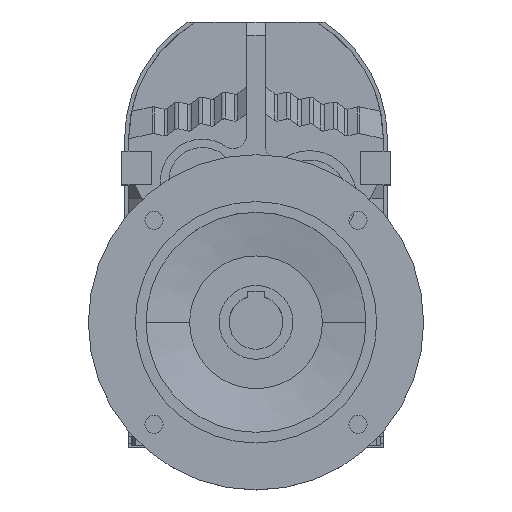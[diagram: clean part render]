
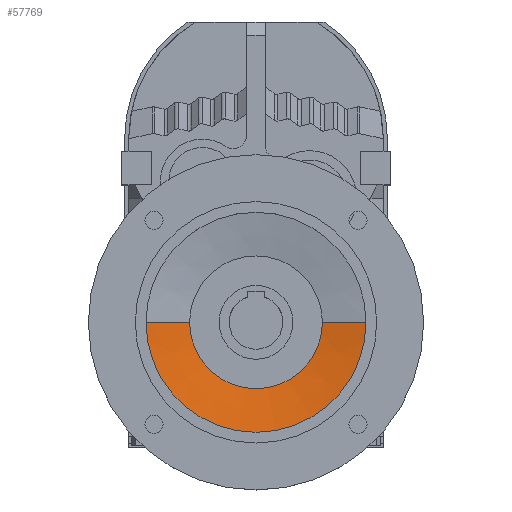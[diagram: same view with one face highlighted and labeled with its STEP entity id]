
A CAD part, top view. The second image highlights one B-rep face of the part: STEP entity #57769.
In plain terms, the highlighted conical face has half-angle 80.395 degrees and reference radius 82 mm.
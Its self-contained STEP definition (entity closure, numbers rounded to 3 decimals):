
#56710 = CYLINDRICAL_SURFACE('',#56711,82.);
#56711 = AXIS2_PLACEMENT_3D('',#56712,#56713,#56714);
#56712 = CARTESIAN_POINT('',(0.,-136.,0.));
#56713 = DIRECTION('',(0.,0.,-1.));
#56714 = DIRECTION('',(-1.,0.,0.));
#57120 = VERTEX_POINT('',#57121);
#57121 = CARTESIAN_POINT('',(-82.,-136.,167.5));
#57140 = EDGE_CURVE('',#57141,#57120,#57143,.T.);
#57141 = VERTEX_POINT('',#57142);
#57142 = CARTESIAN_POINT('',(82.,-136.,167.5));
#57143 = SURFACE_CURVE('',#57144,(#57149,#57155),.PCURVE_S1.);
#57144 = CIRCLE('',#57145,82.);
#57145 = AXIS2_PLACEMENT_3D('',#57146,#57147,#57148);
#57146 = CARTESIAN_POINT('',(0.,-136.,167.5));
#57147 = DIRECTION('',(0.,0.,-1.));
#57148 = DIRECTION('',(-1.,0.,0.));
#57149 = PCURVE('',#56710,#57150);
#57150 = DEFINITIONAL_REPRESENTATION('',(#57151),#57154);
#57151 = B_SPLINE_CURVE_WITH_KNOTS('',1,(#57152,#57153),.UNSPECIFIED.,
  .F.,.F.,(2,2),(3.142,6.283),.PIECEWISE_BEZIER_KNOTS.);
#57152 = CARTESIAN_POINT('',(3.142,-167.5));
#57153 = CARTESIAN_POINT('',(6.283,-167.5));
#57154 = ( GEOMETRIC_REPRESENTATION_CONTEXT(2) 
PARAMETRIC_REPRESENTATION_CONTEXT() REPRESENTATION_CONTEXT('2D SPACE',''
  ) );
#57155 = PCURVE('',#57156,#57161);
#57156 = CONICAL_SURFACE('',#57157,82.,1.403);
#57157 = AXIS2_PLACEMENT_3D('',#57158,#57159,#57160);
#57158 = CARTESIAN_POINT('',(0.,-136.,167.5));
#57159 = DIRECTION('',(0.,0.,1.));
#57160 = DIRECTION('',(1.,0.,0.));
#57161 = DEFINITIONAL_REPRESENTATION('',(#57162),#57188);
#57162 = B_SPLINE_CURVE_WITH_KNOTS('',3,(#57163,#57164,#57165,#57166,
    #57167,#57168,#57169,#57170,#57171,#57172,#57173,#57174,#57175,
    #57176,#57177,#57178,#57179,#57180,#57181,#57182,#57183,#57184,
    #57185,#57186,#57187),.UNSPECIFIED.,.F.,.F.,(4,1,1,1,1,1,1,1,1,1,1,1
    ,1,1,1,1,1,1,1,1,1,1,4),(3.142,3.284,3.427
    ,3.57,3.713,3.856,3.998,
    4.141,4.284,4.427,4.57,
    4.712,4.855,4.998,5.141,
    5.284,5.426,5.569,5.712,
    5.855,5.998,6.14,6.283),
  .QUASI_UNIFORM_KNOTS.);
#57163 = CARTESIAN_POINT('',(6.283,0.));
#57164 = CARTESIAN_POINT('',(6.236,0.));
#57165 = CARTESIAN_POINT('',(6.14,0.));
#57166 = CARTESIAN_POINT('',(5.998,0.));
#57167 = CARTESIAN_POINT('',(5.855,0.));
#57168 = CARTESIAN_POINT('',(5.712,0.));
#57169 = CARTESIAN_POINT('',(5.569,0.));
#57170 = CARTESIAN_POINT('',(5.426,0.));
#57171 = CARTESIAN_POINT('',(5.284,0.));
#57172 = CARTESIAN_POINT('',(5.141,0.));
#57173 = CARTESIAN_POINT('',(4.998,0.));
#57174 = CARTESIAN_POINT('',(4.855,0.));
#57175 = CARTESIAN_POINT('',(4.712,0.));
#57176 = CARTESIAN_POINT('',(4.57,0.));
#57177 = CARTESIAN_POINT('',(4.427,0.));
#57178 = CARTESIAN_POINT('',(4.284,0.));
#57179 = CARTESIAN_POINT('',(4.141,0.));
#57180 = CARTESIAN_POINT('',(3.998,0.));
#57181 = CARTESIAN_POINT('',(3.856,0.));
#57182 = CARTESIAN_POINT('',(3.713,0.));
#57183 = CARTESIAN_POINT('',(3.57,0.));
#57184 = CARTESIAN_POINT('',(3.427,0.));
#57185 = CARTESIAN_POINT('',(3.284,0.));
#57186 = CARTESIAN_POINT('',(3.189,0.));
#57187 = CARTESIAN_POINT('',(3.142,0.));
#57188 = ( GEOMETRIC_REPRESENTATION_CONTEXT(2) 
PARAMETRIC_REPRESENTATION_CONTEXT() REPRESENTATION_CONTEXT('2D SPACE',''
  ) );
#57227 = CONICAL_SURFACE('',#57228,82.,1.403);
#57228 = AXIS2_PLACEMENT_3D('',#57229,#57230,#57231);
#57229 = CARTESIAN_POINT('',(0.,-136.,167.5));
#57230 = DIRECTION('',(0.,0.,1.));
#57231 = DIRECTION('',(1.,0.,0.));
#57769 = ADVANCED_FACE('',(#57770),#57156,.F.);
#57770 = FACE_BOUND('',#57771,.F.);
#57771 = EDGE_LOOP('',(#57772,#57824,#57843,#57844));
#57772 = ORIENTED_EDGE('',*,*,#57773,.F.);
#57773 = EDGE_CURVE('',#57774,#57776,#57778,.T.);
#57774 = VERTEX_POINT('',#57775);
#57775 = CARTESIAN_POINT('',(49.5,-136.,162.));
#57776 = VERTEX_POINT('',#57777);
#57777 = CARTESIAN_POINT('',(-49.5,-136.,162.));
#57778 = SURFACE_CURVE('',#57779,(#57784,#57813),.PCURVE_S1.);
#57779 = CIRCLE('',#57780,49.5);
#57780 = AXIS2_PLACEMENT_3D('',#57781,#57782,#57783);
#57781 = CARTESIAN_POINT('',(0.,-136.,162.));
#57782 = DIRECTION('',(0.,0.,-1.));
#57783 = DIRECTION('',(-1.,0.,0.));
#57784 = PCURVE('',#57156,#57785);
#57785 = DEFINITIONAL_REPRESENTATION('',(#57786),#57812);
#57786 = B_SPLINE_CURVE_WITH_KNOTS('',3,(#57787,#57788,#57789,#57790,
    #57791,#57792,#57793,#57794,#57795,#57796,#57797,#57798,#57799,
    #57800,#57801,#57802,#57803,#57804,#57805,#57806,#57807,#57808,
    #57809,#57810,#57811),.UNSPECIFIED.,.F.,.F.,(4,1,1,1,1,1,1,1,1,1,1,1
    ,1,1,1,1,1,1,1,1,1,1,4),(3.142,3.284,3.427
    ,3.57,3.713,3.856,3.998,
    4.141,4.284,4.427,4.57,
    4.712,4.855,4.998,5.141,
    5.284,5.426,5.569,5.712,
    5.855,5.998,6.14,6.283),
  .QUASI_UNIFORM_KNOTS.);
#57787 = CARTESIAN_POINT('',(6.283,-5.5));
#57788 = CARTESIAN_POINT('',(6.236,-5.5));
#57789 = CARTESIAN_POINT('',(6.14,-5.5));
#57790 = CARTESIAN_POINT('',(5.998,-5.5));
#57791 = CARTESIAN_POINT('',(5.855,-5.5));
#57792 = CARTESIAN_POINT('',(5.712,-5.5));
#57793 = CARTESIAN_POINT('',(5.569,-5.5));
#57794 = CARTESIAN_POINT('',(5.426,-5.5));
#57795 = CARTESIAN_POINT('',(5.284,-5.5));
#57796 = CARTESIAN_POINT('',(5.141,-5.5));
#57797 = CARTESIAN_POINT('',(4.998,-5.5));
#57798 = CARTESIAN_POINT('',(4.855,-5.5));
#57799 = CARTESIAN_POINT('',(4.712,-5.5));
#57800 = CARTESIAN_POINT('',(4.57,-5.5));
#57801 = CARTESIAN_POINT('',(4.427,-5.5));
#57802 = CARTESIAN_POINT('',(4.284,-5.5));
#57803 = CARTESIAN_POINT('',(4.141,-5.5));
#57804 = CARTESIAN_POINT('',(3.998,-5.5));
#57805 = CARTESIAN_POINT('',(3.856,-5.5));
#57806 = CARTESIAN_POINT('',(3.713,-5.5));
#57807 = CARTESIAN_POINT('',(3.57,-5.5));
#57808 = CARTESIAN_POINT('',(3.427,-5.5));
#57809 = CARTESIAN_POINT('',(3.284,-5.5));
#57810 = CARTESIAN_POINT('',(3.189,-5.5));
#57811 = CARTESIAN_POINT('',(3.142,-5.5));
#57812 = ( GEOMETRIC_REPRESENTATION_CONTEXT(2) 
PARAMETRIC_REPRESENTATION_CONTEXT() REPRESENTATION_CONTEXT('2D SPACE',''
  ) );
#57813 = PCURVE('',#57814,#57819);
#57814 = CYLINDRICAL_SURFACE('',#57815,49.5);
#57815 = AXIS2_PLACEMENT_3D('',#57816,#57817,#57818);
#57816 = CARTESIAN_POINT('',(0.,-136.,0.));
#57817 = DIRECTION('',(0.,0.,-1.));
#57818 = DIRECTION('',(-1.,0.,0.));
#57819 = DEFINITIONAL_REPRESENTATION('',(#57820),#57823);
#57820 = B_SPLINE_CURVE_WITH_KNOTS('',1,(#57821,#57822),.UNSPECIFIED.,
  .F.,.F.,(2,2),(3.142,6.283),.PIECEWISE_BEZIER_KNOTS.);
#57821 = CARTESIAN_POINT('',(3.142,-162.));
#57822 = CARTESIAN_POINT('',(6.283,-162.));
#57823 = ( GEOMETRIC_REPRESENTATION_CONTEXT(2) 
PARAMETRIC_REPRESENTATION_CONTEXT() REPRESENTATION_CONTEXT('2D SPACE',''
  ) );
#57824 = ORIENTED_EDGE('',*,*,#57825,.T.);
#57825 = EDGE_CURVE('',#57774,#57141,#57826,.T.);
#57826 = SURFACE_CURVE('',#57827,(#57831,#57837),.PCURVE_S1.);
#57827 = LINE('',#57828,#57829);
#57828 = CARTESIAN_POINT('',(82.,-136.,167.5));
#57829 = VECTOR('',#57830,1.);
#57830 = DIRECTION('',(0.986,0.,0.167));
#57831 = PCURVE('',#57156,#57832);
#57832 = DEFINITIONAL_REPRESENTATION('',(#57833),#57836);
#57833 = B_SPLINE_CURVE_WITH_KNOTS('',1,(#57834,#57835),.UNSPECIFIED.,
  .F.,.F.,(2,2),(-32.962,0.),.PIECEWISE_BEZIER_KNOTS.);
#57834 = CARTESIAN_POINT('',(6.283,-5.5));
#57835 = CARTESIAN_POINT('',(6.283,0.));
#57836 = ( GEOMETRIC_REPRESENTATION_CONTEXT(2) 
PARAMETRIC_REPRESENTATION_CONTEXT() REPRESENTATION_CONTEXT('2D SPACE',''
  ) );
#57837 = PCURVE('',#57227,#57838);
#57838 = DEFINITIONAL_REPRESENTATION('',(#57839),#57842);
#57839 = B_SPLINE_CURVE_WITH_KNOTS('',1,(#57840,#57841),.UNSPECIFIED.,
  .F.,.F.,(2,2),(-32.962,0.),.PIECEWISE_BEZIER_KNOTS.);
#57840 = CARTESIAN_POINT('',(0.,-5.5));
#57841 = CARTESIAN_POINT('',(0.,0.));
#57842 = ( GEOMETRIC_REPRESENTATION_CONTEXT(2) 
PARAMETRIC_REPRESENTATION_CONTEXT() REPRESENTATION_CONTEXT('2D SPACE',''
  ) );
#57843 = ORIENTED_EDGE('',*,*,#57140,.T.);
#57844 = ORIENTED_EDGE('',*,*,#57845,.F.);
#57845 = EDGE_CURVE('',#57776,#57120,#57846,.T.);
#57846 = SURFACE_CURVE('',#57847,(#57851,#57857),.PCURVE_S1.);
#57847 = LINE('',#57848,#57849);
#57848 = CARTESIAN_POINT('',(-82.,-136.,167.5));
#57849 = VECTOR('',#57850,1.);
#57850 = DIRECTION('',(-0.986,0.,
    0.167));
#57851 = PCURVE('',#57156,#57852);
#57852 = DEFINITIONAL_REPRESENTATION('',(#57853),#57856);
#57853 = B_SPLINE_CURVE_WITH_KNOTS('',1,(#57854,#57855),.UNSPECIFIED.,
  .F.,.F.,(2,2),(-32.962,0.),.PIECEWISE_BEZIER_KNOTS.);
#57854 = CARTESIAN_POINT('',(3.142,-5.5));
#57855 = CARTESIAN_POINT('',(3.142,0.));
#57856 = ( GEOMETRIC_REPRESENTATION_CONTEXT(2) 
PARAMETRIC_REPRESENTATION_CONTEXT() REPRESENTATION_CONTEXT('2D SPACE',''
  ) );
#57857 = PCURVE('',#57227,#57858);
#57858 = DEFINITIONAL_REPRESENTATION('',(#57859),#57862);
#57859 = B_SPLINE_CURVE_WITH_KNOTS('',1,(#57860,#57861),.UNSPECIFIED.,
  .F.,.F.,(2,2),(-32.962,0.),.PIECEWISE_BEZIER_KNOTS.);
#57860 = CARTESIAN_POINT('',(3.142,-5.5));
#57861 = CARTESIAN_POINT('',(3.142,0.));
#57862 = ( GEOMETRIC_REPRESENTATION_CONTEXT(2) 
PARAMETRIC_REPRESENTATION_CONTEXT() REPRESENTATION_CONTEXT('2D SPACE',''
  ) );
